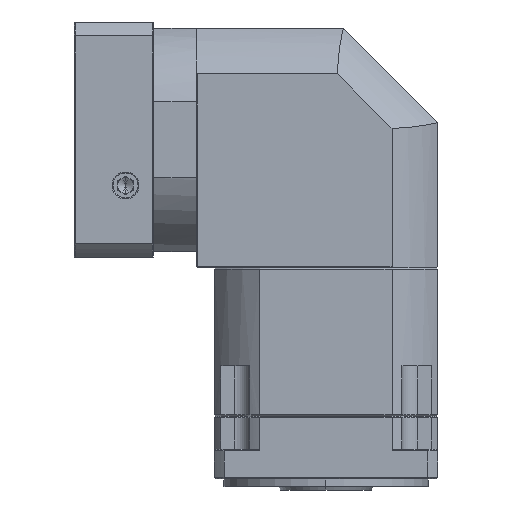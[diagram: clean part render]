
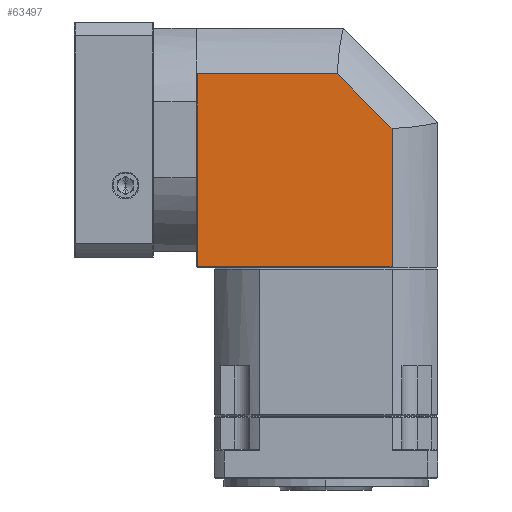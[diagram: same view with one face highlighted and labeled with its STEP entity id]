
A CAD part, left-side view. The second image highlights one B-rep face of the part: STEP entity #63497.
In plain terms, the highlighted planar face has unit normal (-1, 0, 0).
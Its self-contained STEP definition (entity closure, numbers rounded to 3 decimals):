
#1064 = AXIS2_PLACEMENT_3D ( 'NONE', #122858, #20709, #29728 ) ;
#3291 = CARTESIAN_POINT ( 'NONE',  ( -181.773, 37.22, 30.706 ) ) ;
#4372 = LINE ( 'NONE', #65390, #79783 ) ;
#4987 = VECTOR ( 'NONE', #56031, 1000. ) ;
#9194 = ORIENTED_EDGE ( 'NONE', *, *, #41120, .T. ) ;
#9418 = ORIENTED_EDGE ( 'NONE', *, *, #82079, .T. ) ;
#11426 = LINE ( 'NONE', #118272, #4987 ) ;
#16650 = CARTESIAN_POINT ( 'NONE',  ( -181.773, 37.22, -57.336 ) ) ;
#18348 = VERTEX_POINT ( 'NONE', #119641 ) ;
#18725 = LINE ( 'NONE', #3291, #106919 ) ;
#20201 = CARTESIAN_POINT ( 'NONE',  ( -181.773, 84.985, 65.379 ) ) ;
#20575 = VERTEX_POINT ( 'NONE', #63668 ) ;
#20709 = DIRECTION ( 'NONE',  ( -1., 0., 0. ) ) ;
#21807 = DIRECTION ( 'NONE',  ( 0., -1., 0. ) ) ;
#22716 = CARTESIAN_POINT ( 'NONE',  ( -181.773, 84.985, -57.336 ) ) ;
#26633 = EDGE_CURVE ( 'NONE', #108306, #18348, #116201, .T. ) ;
#27697 = ORIENTED_EDGE ( 'NONE', *, *, #116562, .T. ) ;
#29728 = DIRECTION ( 'NONE',  ( 0., 0., -1. ) ) ;
#41120 = EDGE_CURVE ( 'NONE', #89339, #108306, #18725, .T. ) ;
#47620 = CARTESIAN_POINT ( 'NONE',  ( -181.773, 37.22, 30.706 ) ) ;
#51074 = EDGE_LOOP ( 'NONE', ( #9194, #69389, #27697, #93479, #9418 ) ) ;
#53746 = VECTOR ( 'NONE', #131709, 1000. ) ;
#56031 = DIRECTION ( 'NONE',  ( 0., 0., -1. ) ) ;
#63497 = ADVANCED_FACE ( 'NONE', ( #69045 ), #70083, .T. ) ;
#63668 = CARTESIAN_POINT ( 'NONE',  ( -181.773, 161.235, -57.336 ) ) ;
#64539 = LINE ( 'NONE', #22716, #107746 ) ;
#64720 = VERTEX_POINT ( 'NONE', #16650 ) ;
#65390 = CARTESIAN_POINT ( 'NONE',  ( -181.773, 37.22, 18.264 ) ) ;
#69045 = FACE_OUTER_BOUND ( 'NONE', #51074, .T. ) ;
#69389 = ORIENTED_EDGE ( 'NONE', *, *, #26633, .T. ) ;
#70083 = PLANE ( 'NONE',  #1064 ) ;
#79783 = VECTOR ( 'NONE', #87280, 1000. ) ;
#82079 = EDGE_CURVE ( 'NONE', #64720, #89339, #4372, .T. ) ;
#84123 = EDGE_CURVE ( 'NONE', #20575, #64720, #64539, .T. ) ;
#85030 = CARTESIAN_POINT ( 'NONE',  ( -181.773, 71.893, 65.379 ) ) ;
#85350 = DIRECTION ( 'NONE',  ( 0., 0.707, 0.707 ) ) ;
#87280 = DIRECTION ( 'NONE',  ( 0., 0., 1. ) ) ;
#89339 = VERTEX_POINT ( 'NONE', #47620 ) ;
#93479 = ORIENTED_EDGE ( 'NONE', *, *, #84123, .T. ) ;
#106919 = VECTOR ( 'NONE', #85350, 1000. ) ;
#107746 = VECTOR ( 'NONE', #21807, 1000. ) ;
#108306 = VERTEX_POINT ( 'NONE', #85030 ) ;
#116201 = LINE ( 'NONE', #20201, #53746 ) ;
#116562 = EDGE_CURVE ( 'NONE', #18348, #20575, #11426, .T. ) ;
#118272 = CARTESIAN_POINT ( 'NONE',  ( -181.773, 161.235, 18.264 ) ) ;
#119641 = CARTESIAN_POINT ( 'NONE',  ( -181.773, 161.235, 65.379 ) ) ;
#122858 = CARTESIAN_POINT ( 'NONE',  ( -181.773, 84.985, 18.264 ) ) ;
#131709 = DIRECTION ( 'NONE',  ( 0., 1., 0. ) ) ;
